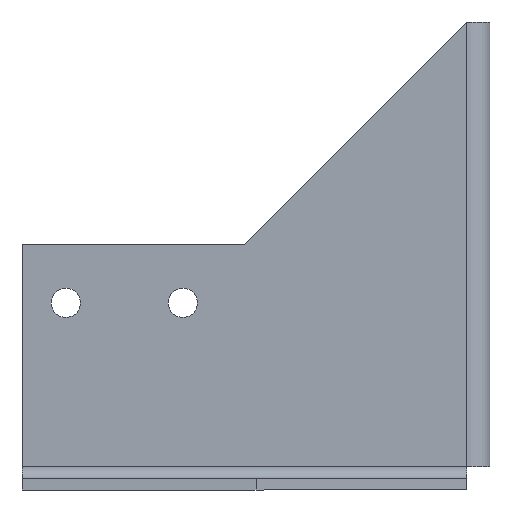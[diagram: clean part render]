
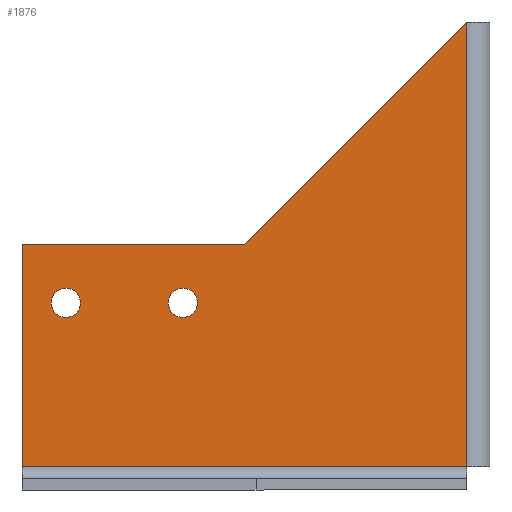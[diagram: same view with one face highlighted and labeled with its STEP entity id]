
A CAD part, left-side view. The second image highlights one B-rep face of the part: STEP entity #1876.
In plain terms, the highlighted planar face has unit normal (-1, 0, 0).
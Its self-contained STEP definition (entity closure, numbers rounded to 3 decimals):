
#47 = CARTESIAN_POINT ( 'NONE',  ( -2., 50.5, -48. ) ) ;
#70 = DIRECTION ( 'NONE',  ( 0., -1., 0. ) ) ;
#132 = AXIS2_PLACEMENT_3D ( 'NONE', #47, #543, #772 ) ;
#144 = CARTESIAN_POINT ( 'NONE',  ( -2., 40., -38. ) ) ;
#196 = DIRECTION ( 'NONE',  ( -1., 0., 0. ) ) ;
#314 = CARTESIAN_POINT ( 'NONE',  ( -2., 70.5, -48. ) ) ;
#356 = EDGE_CURVE ( 'NONE', #2206, #2392, #2335, .T. ) ;
#379 = VECTOR ( 'NONE', #2580, 1000. ) ;
#395 = VERTEX_POINT ( 'NONE', #400 ) ;
#400 = CARTESIAN_POINT ( 'NONE',  ( -2., 2., 0. ) ) ;
#419 = DIRECTION ( 'NONE',  ( 0., -1., 0. ) ) ;
#498 = VERTEX_POINT ( 'NONE', #1946 ) ;
#508 = CIRCLE ( 'NONE', #132, 2.5 ) ;
#543 = DIRECTION ( 'NONE',  ( 1., 0., 0. ) ) ;
#546 = LINE ( 'NONE', #1872, #2765 ) ;
#708 = EDGE_CURVE ( 'NONE', #2215, #1580, #1501, .T. ) ;
#750 = EDGE_LOOP ( 'NONE', ( #2009, #2897, #1786, #2986, #2498 ) ) ;
#772 = DIRECTION ( 'NONE',  ( 0., -1., 0. ) ) ;
#881 = CIRCLE ( 'NONE', #1606, 2.5 ) ;
#910 = LINE ( 'NONE', #2523, #2332 ) ;
#952 = VERTEX_POINT ( 'NONE', #974 ) ;
#971 = ORIENTED_EDGE ( 'NONE', *, *, #708, .T. ) ;
#974 = CARTESIAN_POINT ( 'NONE',  ( -2., 48., -48. ) ) ;
#1037 = EDGE_LOOP ( 'NONE', ( #2037, #2011 ) ) ;
#1046 = CARTESIAN_POINT ( 'NONE',  ( -2., 70.5, -48. ) ) ;
#1066 = DIRECTION ( 'NONE',  ( 0., -1., 0. ) ) ;
#1244 = EDGE_CURVE ( 'NONE', #2392, #395, #2457, .T. ) ;
#1282 = DIRECTION ( 'NONE',  ( 1., 0., 0. ) ) ;
#1293 = VERTEX_POINT ( 'NONE', #1901 ) ;
#1322 = FACE_BOUND ( 'NONE', #1737, .T. ) ;
#1390 = CIRCLE ( 'NONE', #1473, 2.5 ) ;
#1411 = DIRECTION ( 'NONE',  ( 0., -1., 0. ) ) ;
#1473 = AXIS2_PLACEMENT_3D ( 'NONE', #314, #2197, #70 ) ;
#1501 = CIRCLE ( 'NONE', #2529, 2.5 ) ;
#1554 = DIRECTION ( 'NONE',  ( 0., -1., 0. ) ) ;
#1580 = VERTEX_POINT ( 'NONE', #1757 ) ;
#1606 = AXIS2_PLACEMENT_3D ( 'NONE', #1668, #2398, #1411 ) ;
#1609 = EDGE_CURVE ( 'NONE', #1580, #2215, #1390, .T. ) ;
#1633 = VECTOR ( 'NONE', #2080, 1000. ) ;
#1646 = CARTESIAN_POINT ( 'NONE',  ( -2., 78., -38. ) ) ;
#1668 = CARTESIAN_POINT ( 'NONE',  ( -2., 50.5, -48. ) ) ;
#1737 = EDGE_LOOP ( 'NONE', ( #971, #2230 ) ) ;
#1757 = CARTESIAN_POINT ( 'NONE',  ( -2., 68., -48. ) ) ;
#1786 = ORIENTED_EDGE ( 'NONE', *, *, #356, .F. ) ;
#1819 = CARTESIAN_POINT ( 'NONE',  ( -2., 0., 0. ) ) ;
#1852 = DIRECTION ( 'NONE',  ( 0., 0., 1. ) ) ;
#1872 = CARTESIAN_POINT ( 'NONE',  ( -2., 78., -76. ) ) ;
#1876 = ADVANCED_FACE ( 'NONE', ( #1944, #1322, #2240 ), #2725, .T. ) ;
#1901 = CARTESIAN_POINT ( 'NONE',  ( -2., 53., -48. ) ) ;
#1909 = CARTESIAN_POINT ( 'NONE',  ( -2., 73., -48. ) ) ;
#1933 = DIRECTION ( 'NONE',  ( 0., 1., 0. ) ) ;
#1944 = FACE_BOUND ( 'NONE', #1037, .T. ) ;
#1946 = CARTESIAN_POINT ( 'NONE',  ( -2., 78., -76. ) ) ;
#1978 = EDGE_CURVE ( 'NONE', #2752, #395, #2957, .T. ) ;
#2009 = ORIENTED_EDGE ( 'NONE', *, *, #1978, .T. ) ;
#2011 = ORIENTED_EDGE ( 'NONE', *, *, #2895, .T. ) ;
#2037 = ORIENTED_EDGE ( 'NONE', *, *, #2181, .T. ) ;
#2060 = AXIS2_PLACEMENT_3D ( 'NONE', #1819, #196, #419 ) ;
#2080 = DIRECTION ( 'NONE',  ( 0., 0., 1. ) ) ;
#2181 = EDGE_CURVE ( 'NONE', #1293, #952, #881, .T. ) ;
#2197 = DIRECTION ( 'NONE',  ( 1., 0., 0. ) ) ;
#2206 = VERTEX_POINT ( 'NONE', #1646 ) ;
#2215 = VERTEX_POINT ( 'NONE', #1909 ) ;
#2230 = ORIENTED_EDGE ( 'NONE', *, *, #1609, .T. ) ;
#2240 = FACE_OUTER_BOUND ( 'NONE', #750, .T. ) ;
#2254 = CARTESIAN_POINT ( 'NONE',  ( -2., 0., -38. ) ) ;
#2327 = CARTESIAN_POINT ( 'NONE',  ( -2., 2., 0. ) ) ;
#2332 = VECTOR ( 'NONE', #1852, 1000. ) ;
#2335 = LINE ( 'NONE', #2254, #2403 ) ;
#2336 = CARTESIAN_POINT ( 'NONE',  ( -2., 2., -76. ) ) ;
#2392 = VERTEX_POINT ( 'NONE', #144 ) ;
#2398 = DIRECTION ( 'NONE',  ( 1., 0., 0. ) ) ;
#2403 = VECTOR ( 'NONE', #1554, 1000. ) ;
#2457 = LINE ( 'NONE', #2588, #379 ) ;
#2498 = ORIENTED_EDGE ( 'NONE', *, *, #2703, .F. ) ;
#2523 = CARTESIAN_POINT ( 'NONE',  ( -2., 78., 0. ) ) ;
#2529 = AXIS2_PLACEMENT_3D ( 'NONE', #1046, #1282, #1066 ) ;
#2580 = DIRECTION ( 'NONE',  ( 0., -0.707, 0.707 ) ) ;
#2588 = CARTESIAN_POINT ( 'NONE',  ( -2., 1., 1. ) ) ;
#2655 = EDGE_CURVE ( 'NONE', #498, #2206, #910, .T. ) ;
#2703 = EDGE_CURVE ( 'NONE', #2752, #498, #546, .T. ) ;
#2725 = PLANE ( 'NONE',  #2060 ) ;
#2752 = VERTEX_POINT ( 'NONE', #2336 ) ;
#2765 = VECTOR ( 'NONE', #1933, 1000. ) ;
#2895 = EDGE_CURVE ( 'NONE', #952, #1293, #508, .T. ) ;
#2897 = ORIENTED_EDGE ( 'NONE', *, *, #1244, .F. ) ;
#2957 = LINE ( 'NONE', #2327, #1633 ) ;
#2986 = ORIENTED_EDGE ( 'NONE', *, *, #2655, .F. ) ;
